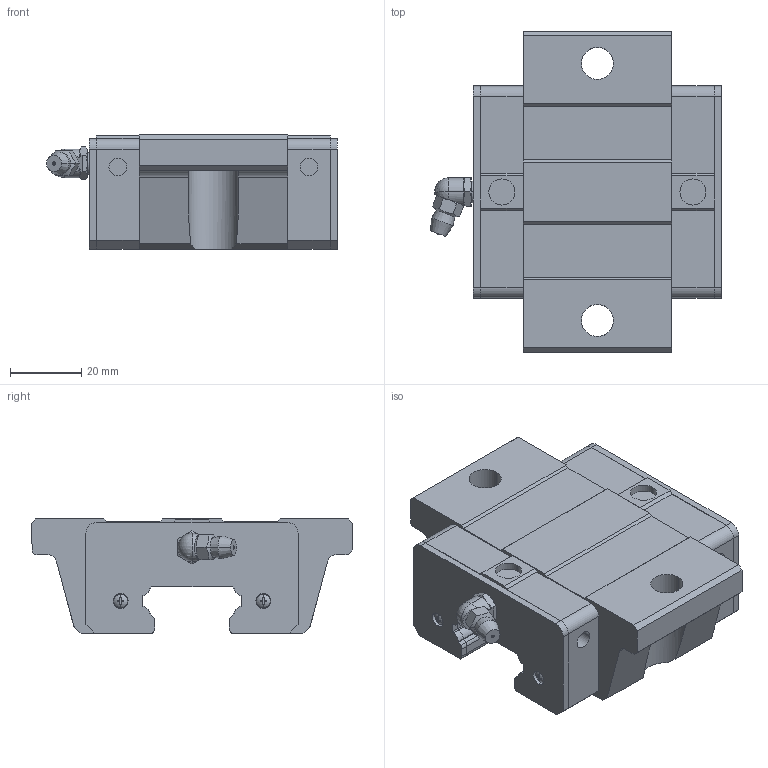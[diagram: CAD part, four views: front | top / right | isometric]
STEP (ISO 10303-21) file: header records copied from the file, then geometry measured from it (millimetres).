
FILE_DESCRIPTION(('starvars output'),'2;1');
FILE_NAME('cv20190626224149000075368.stp','22:41:50 2019/06/26',( 'Thomas Industrial Network Germany GmbH'),( 'Thomas Industrial Network Germany GmbH'),'unknown preprocess','ACIS' ,'unknown authorization');
FILE_SCHEMA(('CONFIG_CONTROL_DESIGN {UNKNOWN IMPLEMENTATION LEVEL}'));
Length unit declared in the file: millimetre
Products named in the file (10): PRODUCT_ID_1; PRODUCT_ID_2; PRODUCT_ID_3; PRODUCT_ID_4; PRODUCT_ID_5; PRODUCT_ID_6; PRODUCT_ID_7; PRODUCT_ID_8; PRODUCT_ID_9; PRODUCT_ID_10
Bounding box: 81.5 x 90 x 32 mm (x, y, z)
Volume: 126710.4 mm3; surface area: 35333.7 mm2
Topology: 10 solids, 10 shells, 400 faces, 1065 edges, 693 vertices
Faces by surface type: plane 220, cylinder 128, cone 40, sphere 12
Entity records: 12266 total; most frequent: ORIENTED_EDGE 2122, CARTESIAN_POINT 2024, DIRECTION 1804, EDGE_CURVE 1061, VERTEX_POINT 693, AXIS2_PLACEMENT_3D 607, VECTOR 590, LINE 590
